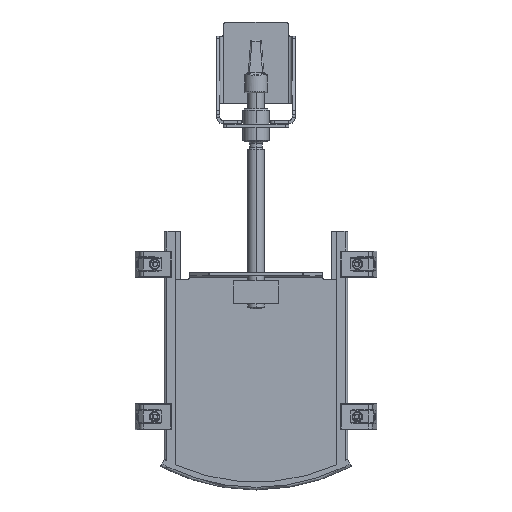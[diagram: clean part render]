
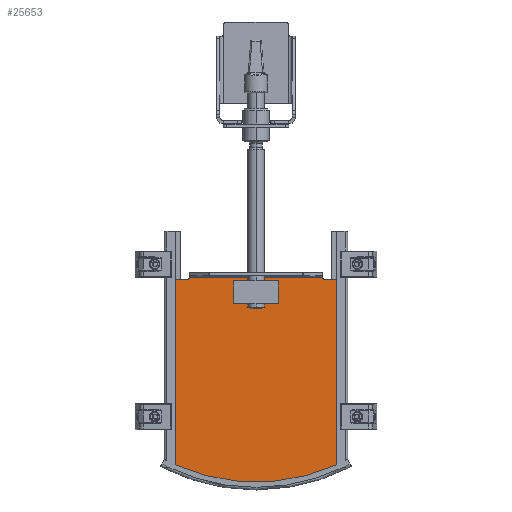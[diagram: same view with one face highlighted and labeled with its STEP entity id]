
A CAD part, top view. The second image highlights one B-rep face of the part: STEP entity #25653.
In plain terms, the highlighted planar face has unit normal (0, 0, 1).
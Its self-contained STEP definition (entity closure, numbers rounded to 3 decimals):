
#180 = EDGE_CURVE ( 'NONE', #31027, #8750, #22022, .T. ) ;
#415 = CARTESIAN_POINT ( 'NONE',  ( 34., 307.5, 33. ) ) ;
#436 = ORIENTED_EDGE ( 'NONE', *, *, #1370, .T. ) ;
#633 = VECTOR ( 'NONE', #15757, 1000. ) ;
#1370 = EDGE_CURVE ( 'NONE', #23156, #26850, #35185, .T. ) ;
#1705 = DIRECTION ( 'NONE',  ( -1., 0., 0. ) ) ;
#1726 = DIRECTION ( 'NONE',  ( 0., 1., 0. ) ) ;
#1727 = ORIENTED_EDGE ( 'NONE', *, *, #29139, .F. ) ;
#2179 = DIRECTION ( 'NONE',  ( 0., 1., 0. ) ) ;
#2223 = VECTOR ( 'NONE', #8518, 1000. ) ;
#2382 = EDGE_CURVE ( 'NONE', #12693, #11716, #15766, .T. ) ;
#2499 = PLANE ( 'NONE',  #35433 ) ;
#2618 = ORIENTED_EDGE ( 'NONE', *, *, #13124, .T. ) ;
#2667 = CARTESIAN_POINT ( 'NONE',  ( 123., 26.374, 33. ) ) ;
#2808 = DIRECTION ( 'NONE',  ( 0., 0., -1. ) ) ;
#3179 = EDGE_CURVE ( 'NONE', #29123, #29684, #26400, .T. ) ;
#3196 = CARTESIAN_POINT ( 'NONE',  ( -34., 307.5, 33. ) ) ;
#3781 = VECTOR ( 'NONE', #20962, 1000. ) ;
#4230 = DIRECTION ( 'NONE',  ( 0., 0., -1. ) ) ;
#4688 = VECTOR ( 'NONE', #1726, 1000. ) ;
#4701 = ORIENTED_EDGE ( 'NONE', *, *, #26587, .T. ) ;
#5310 = DIRECTION ( 'NONE',  ( 1., 0., 0. ) ) ;
#6005 = EDGE_LOOP ( 'NONE', ( #436, #4701, #27573, #8263, #10228, #6969, #21629, #2618 ) ) ;
#6026 = CARTESIAN_POINT ( 'NONE',  ( -104., 312., 33. ) ) ;
#6114 = AXIS2_PLACEMENT_3D ( 'NONE', #17016, #2808, #8493 ) ;
#6569 = CIRCLE ( 'NONE', #10660, 2. ) ;
#6969 = ORIENTED_EDGE ( 'NONE', *, *, #14574, .T. ) ;
#7361 = CARTESIAN_POINT ( 'NONE',  ( -123.172, 310., 33. ) ) ;
#7418 = DIRECTION ( 'NONE',  ( -1., 0., 0. ) ) ;
#7601 = CARTESIAN_POINT ( 'NONE',  ( -123., -12.001, 33. ) ) ;
#7619 = CARTESIAN_POINT ( 'NONE',  ( -34., 307.5, 33. ) ) ;
#7759 = EDGE_CURVE ( 'NONE', #31027, #12693, #13003, .T. ) ;
#8263 = ORIENTED_EDGE ( 'NONE', *, *, #7759, .T. ) ;
#8493 = DIRECTION ( 'NONE',  ( 1., 0., 0. ) ) ;
#8518 = DIRECTION ( 'NONE',  ( 0., -1., 0. ) ) ;
#8750 = VERTEX_POINT ( 'NONE', #29328 ) ;
#9779 = DIRECTION ( 'NONE',  ( -1., 0., 0. ) ) ;
#9965 = LINE ( 'NONE', #7601, #633 ) ;
#10066 = CARTESIAN_POINT ( 'NONE',  ( 0., 300., 33. ) ) ;
#10228 = ORIENTED_EDGE ( 'NONE', *, *, #2382, .T. ) ;
#10660 = AXIS2_PLACEMENT_3D ( 'NONE', #6026, #21862, #5310 ) ;
#11530 = ORIENTED_EDGE ( 'NONE', *, *, #16123, .F. ) ;
#11716 = VERTEX_POINT ( 'NONE', #32768 ) ;
#12572 = DIRECTION ( 'NONE',  ( 1., 0., 0. ) ) ;
#12585 = CARTESIAN_POINT ( 'NONE',  ( -130., 312., 33. ) ) ;
#12693 = VERTEX_POINT ( 'NONE', #16081 ) ;
#12788 = CARTESIAN_POINT ( 'NONE',  ( -123., 310., 33. ) ) ;
#13003 = LINE ( 'NONE', #24510, #4688 ) ;
#13124 = EDGE_CURVE ( 'NONE', #29123, #23156, #6569, .T. ) ;
#13584 = CARTESIAN_POINT ( 'NONE',  ( -34., 272.5, 33. ) ) ;
#13748 = CARTESIAN_POINT ( 'NONE',  ( -130., 31.851, 33. ) ) ;
#14224 = CIRCLE ( 'NONE', #6114, 2. ) ;
#14574 = EDGE_CURVE ( 'NONE', #11716, #29684, #14224, .T. ) ;
#15757 = DIRECTION ( 'NONE',  ( 0., -1., 0. ) ) ;
#15766 = LINE ( 'NONE', #23599, #26856 ) ;
#16081 = CARTESIAN_POINT ( 'NONE',  ( 123., 310., 33. ) ) ;
#16123 = EDGE_CURVE ( 'NONE', #16942, #35045, #34766, .T. ) ;
#16528 = LINE ( 'NONE', #13584, #25188 ) ;
#16814 = VERTEX_POINT ( 'NONE', #34458 ) ;
#16942 = VERTEX_POINT ( 'NONE', #31369 ) ;
#17016 = CARTESIAN_POINT ( 'NONE',  ( 104., 312., 33. ) ) ;
#17072 = CARTESIAN_POINT ( 'NONE',  ( -34., 272.5, 33. ) ) ;
#17931 = LINE ( 'NONE', #7619, #20203 ) ;
#18017 = ORIENTED_EDGE ( 'NONE', *, *, #31782, .F. ) ;
#18744 = CARTESIAN_POINT ( 'NONE',  ( 34., 307.5, 33. ) ) ;
#20203 = VECTOR ( 'NONE', #7418, 1000. ) ;
#20962 = DIRECTION ( 'NONE',  ( 1., 0., 0. ) ) ;
#21420 = AXIS2_PLACEMENT_3D ( 'NONE', #10066, #4230, #12572 ) ;
#21629 = ORIENTED_EDGE ( 'NONE', *, *, #3179, .F. ) ;
#21862 = DIRECTION ( 'NONE',  ( 0., 0., -1. ) ) ;
#22022 = CIRCLE ( 'NONE', #21420, 300. ) ;
#23156 = VERTEX_POINT ( 'NONE', #28140 ) ;
#23599 = CARTESIAN_POINT ( 'NONE',  ( 123.172, 310., 33. ) ) ;
#23758 = VECTOR ( 'NONE', #2179, 1000. ) ;
#24510 = CARTESIAN_POINT ( 'NONE',  ( 123., -12.001, 33. ) ) ;
#24884 = DIRECTION ( 'NONE',  ( 0., 0., 1. ) ) ;
#25188 = VECTOR ( 'NONE', #35796, 1000. ) ;
#25653 = ADVANCED_FACE ( 'NONE', ( #27575, #30013 ), #2499, .T. ) ;
#26400 = LINE ( 'NONE', #12585, #3781 ) ;
#26408 = CARTESIAN_POINT ( 'NONE',  ( 102., 312., 33. ) ) ;
#26587 = EDGE_CURVE ( 'NONE', #26850, #8750, #9965, .T. ) ;
#26850 = VERTEX_POINT ( 'NONE', #12788 ) ;
#26856 = VECTOR ( 'NONE', #9779, 1000. ) ;
#27030 = CARTESIAN_POINT ( 'NONE',  ( -102., 312., 33. ) ) ;
#27573 = ORIENTED_EDGE ( 'NONE', *, *, #180, .F. ) ;
#27575 = FACE_OUTER_BOUND ( 'NONE', #6005, .T. ) ;
#28140 = CARTESIAN_POINT ( 'NONE',  ( -104., 310., 33. ) ) ;
#29123 = VERTEX_POINT ( 'NONE', #27030 ) ;
#29139 = EDGE_CURVE ( 'NONE', #16814, #35138, #33987, .T. ) ;
#29328 = CARTESIAN_POINT ( 'NONE',  ( -123., 26.374, 33. ) ) ;
#29684 = VERTEX_POINT ( 'NONE', #26408 ) ;
#30013 = FACE_BOUND ( 'NONE', #34309, .T. ) ;
#31027 = VERTEX_POINT ( 'NONE', #2667 ) ;
#31369 = CARTESIAN_POINT ( 'NONE',  ( 34., 272.5, 33. ) ) ;
#31782 = EDGE_CURVE ( 'NONE', #35138, #16942, #16528, .T. ) ;
#32188 = ORIENTED_EDGE ( 'NONE', *, *, #34337, .F. ) ;
#32750 = DIRECTION ( 'NONE',  ( 1., 0., 0. ) ) ;
#32768 = CARTESIAN_POINT ( 'NONE',  ( 104., 310., 33. ) ) ;
#33987 = LINE ( 'NONE', #3196, #2223 ) ;
#34309 = EDGE_LOOP ( 'NONE', ( #1727, #32188, #11530, #18017 ) ) ;
#34337 = EDGE_CURVE ( 'NONE', #35045, #16814, #17931, .T. ) ;
#34458 = CARTESIAN_POINT ( 'NONE',  ( -34., 307.5, 33. ) ) ;
#34766 = LINE ( 'NONE', #18744, #23758 ) ;
#34907 = VECTOR ( 'NONE', #1705, 1000. ) ;
#35045 = VERTEX_POINT ( 'NONE', #415 ) ;
#35138 = VERTEX_POINT ( 'NONE', #17072 ) ;
#35185 = LINE ( 'NONE', #7361, #34907 ) ;
#35433 = AXIS2_PLACEMENT_3D ( 'NONE', #13748, #24884, #32750 ) ;
#35796 = DIRECTION ( 'NONE',  ( 1., 0., 0. ) ) ;
